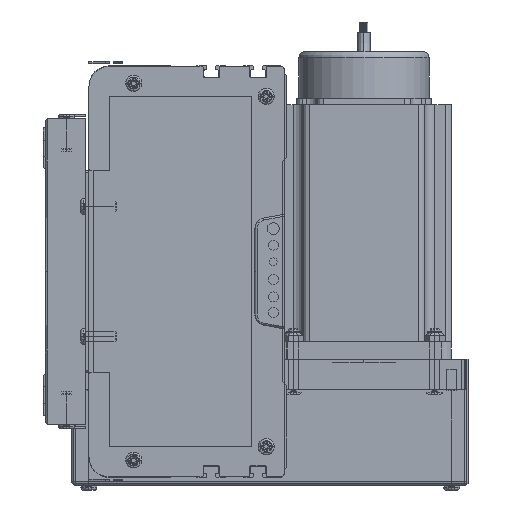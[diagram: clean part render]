
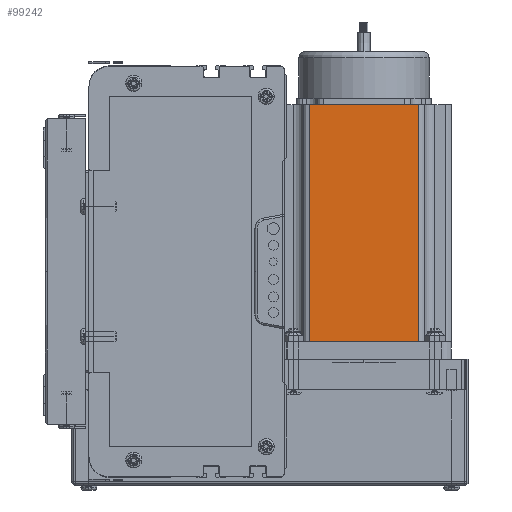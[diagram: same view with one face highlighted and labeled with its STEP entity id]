
A CAD part, left-side view. The second image highlights one B-rep face of the part: STEP entity #99242.
In plain terms, the highlighted planar face has unit normal (-1, 0, 0) as drawn and (0, -1, 0) by its records, which use the part's own axes.
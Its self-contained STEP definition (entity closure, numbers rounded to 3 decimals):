
#72481 = CARTESIAN_POINT ( 'NONE',  ( 0., 0., 116.5 ) ) ;
#72485 = PLANE ( 'NONE',  #72517 ) ;
#72500 = VECTOR ( 'NONE', #72510, 1000. ) ;
#72504 = CARTESIAN_POINT ( 'NONE',  ( 69.74, 0., 116.5 ) ) ;
#72510 = DIRECTION ( 'NONE',  ( 1., 0., 0. ) ) ;
#72511 = CARTESIAN_POINT ( 'NONE',  ( 0., 0., 0. ) ) ;
#72513 = DIRECTION ( 'NONE',  ( 0., 1., 0. ) ) ;
#72514 = FACE_OUTER_BOUND ( 'NONE', #99531, .T. ) ;
#72517 = AXIS2_PLACEMENT_3D ( 'NONE', #72481, #72513, #72630 ) ;
#72524 = LINE ( 'NONE', #72511, #72500 ) ;
#72584 = DIRECTION ( 'NONE',  ( 1., 0., 0. ) ) ;
#72586 = CARTESIAN_POINT ( 'NONE',  ( 0., 0., 116.5 ) ) ;
#72591 = LINE ( 'NONE', #72586, #72622 ) ;
#72601 = DIRECTION ( 'NONE',  ( 0., 0., 1. ) ) ;
#72602 = VECTOR ( 'NONE', #72601, 1000. ) ;
#72621 = CARTESIAN_POINT ( 'NONE',  ( 69.74, 0., 0. ) ) ;
#72622 = VECTOR ( 'NONE', #72584, 1000. ) ;
#72627 = LINE ( 'NONE', #72504, #72602 ) ;
#72630 = DIRECTION ( 'NONE',  ( 0., 0., 1. ) ) ;
#72633 = CARTESIAN_POINT ( 'NONE',  ( 16.16, 0., 116.5 ) ) ;
#72650 = DIRECTION ( 'NONE',  ( 0., 0., -1. ) ) ;
#72651 = VECTOR ( 'NONE', #72650, 1000. ) ;
#72653 = CARTESIAN_POINT ( 'NONE',  ( 16.16, 0., 116.5 ) ) ;
#72654 = LINE ( 'NONE', #72653, #72651 ) ;
#72819 = CARTESIAN_POINT ( 'NONE',  ( 69.74, 0., 116.5 ) ) ;
#72839 = CARTESIAN_POINT ( 'NONE',  ( 16.16, 0., 0. ) ) ;
#99198 = ORIENTED_EDGE ( 'NONE', *, *, #99294, .T. ) ;
#99237 = EDGE_CURVE ( 'NONE', #99348, #99263, #72524, .T. ) ;
#99242 = ADVANCED_FACE ( 'NONE', ( #72514 ), #72485, .F. ) ;
#99246 = VERTEX_POINT ( 'NONE', #72633 ) ;
#99248 = ORIENTED_EDGE ( 'NONE', *, *, #99251, .T. ) ;
#99251 = EDGE_CURVE ( 'NONE', #99263, #99337, #72627, .T. ) ;
#99263 = VERTEX_POINT ( 'NONE', #72621 ) ;
#99284 = EDGE_CURVE ( 'NONE', #99246, #99337, #72591, .T. ) ;
#99293 = ORIENTED_EDGE ( 'NONE', *, *, #99284, .F. ) ;
#99294 = EDGE_CURVE ( 'NONE', #99246, #99348, #72654, .T. ) ;
#99337 = VERTEX_POINT ( 'NONE', #72819 ) ;
#99348 = VERTEX_POINT ( 'NONE', #72839 ) ;
#99509 = ORIENTED_EDGE ( 'NONE', *, *, #99237, .T. ) ;
#99531 = EDGE_LOOP ( 'NONE', ( #99509, #99248, #99293, #99198 ) ) ;
